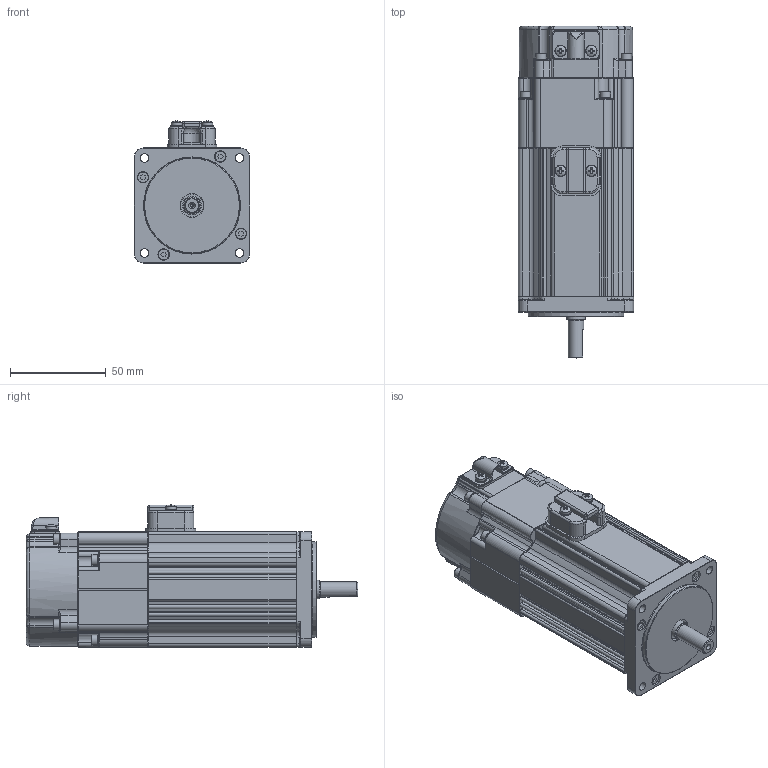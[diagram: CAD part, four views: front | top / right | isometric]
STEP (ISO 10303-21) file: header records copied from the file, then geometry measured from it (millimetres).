
FILE_DESCRIPTION(('STEP AP203'),'1');
FILE_NAME('B500E-D2RB.stp','2021-04-14T07:23:08',(' '),(' '),'Spatial InterOp 3D',' ',' ');
FILE_SCHEMA(('CONFIG_CONTROL_DESIGN'));
Length unit declared in the file: millimetre
Products named in the file (1): B500E-D2RB
Bounding box: 60 x 173 x 74.08 mm (x, y, z)
Volume: 461603.9 mm3; surface area: 55919.9 mm2
Topology: 1 solids, 11 shells, 1522 faces, 3660 edges, 2177 vertices
Faces by surface type: plane 675, cylinder 360, cone 333, torus 124, bspline 15, sphere 11, offset 4
Full cylindrical faces by diameter (mm): 1.6 x1, 2.5 x13, 3 x16, 3.5 x18, 4.5 x4, 5.5 x12, 5.6 x4, 6 x4, 7 x1, 8 x1, 9 x1, 9.8 x1, 12 x1, 50 x1
Entity records: 46178 total; most frequent: CARTESIAN_POINT 11329, DIRECTION 7638, ORIENTED_EDGE 6916, EDGE_CURVE 3458, AXIS2_PLACEMENT_3D 2927, VERTEX_POINT 2117, LINE 1784, VECTOR 1784
